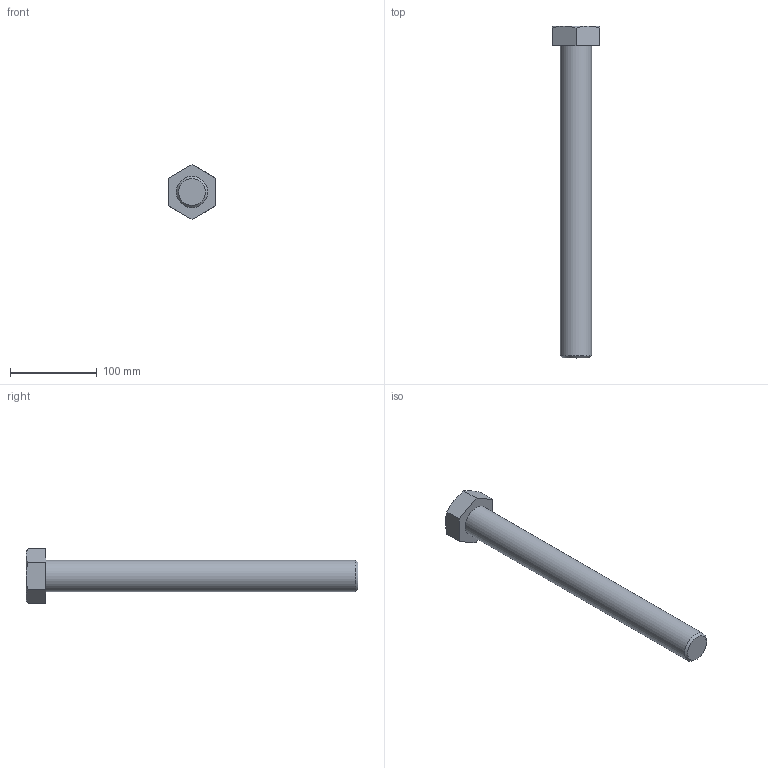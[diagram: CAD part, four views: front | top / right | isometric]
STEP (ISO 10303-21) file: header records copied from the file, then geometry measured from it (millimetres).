
FILE_DESCRIPTION(/* description */ (''),/* implementation_level */ '2;1');
FILE_NAME(/* name */ 'C:\Users\unitec\Documents\Inventor\各種小物\JIS\JIS B 1180 六角ボルト 等級C\hbc36\M36x360.stp',/* time_stamp */ '2015-02-13T14:56:31+09:00',/* author */ ('unitec'),/* organization */ (''),/* preprocessor_version */ 'ST-DEVELOPER v15.2',/* originating_system */ 'Autodesk Inventor 2014',/* authorisation */ '');
FILE_SCHEMA (('AUTOMOTIVE_DESIGN { 1 0 10303 214 3 1 1 }'));
Length unit declared in the file: millimetre
Products named in the file (1): M36x360
Bounding box: 55 x 382.5 x 63.51 mm (x, y, z)
Volume: 424874.6 mm3; surface area: 49948.4 mm2
Topology: 1 solids, 1 shells, 17 faces, 35 edges, 21 vertices
Faces by surface type: plane 9, cone 7, cylinder 1
Full cylindrical faces by diameter (mm): 36 x1
Entity records: 441 total; most frequent: CARTESIAN_POINT 96, ORIENTED_EDGE 66, DIRECTION 66, EDGE_CURVE 33, AXIS2_PLACEMENT_3D 27, VERTEX_POINT 21, EDGE_LOOP 20, ADVANCED_FACE 17
